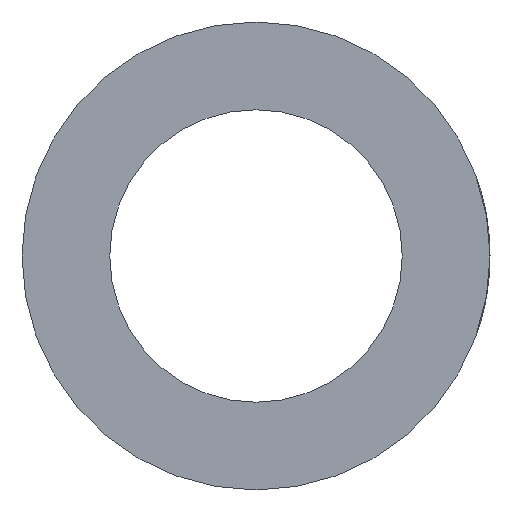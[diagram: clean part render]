
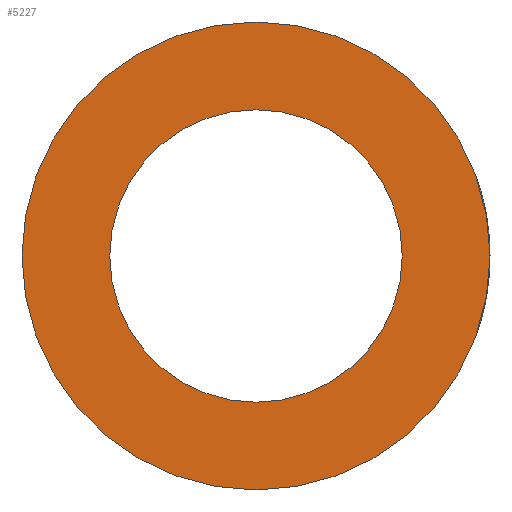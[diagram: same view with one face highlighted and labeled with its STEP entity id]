
A CAD part, left-side view. The second image highlights one B-rep face of the part: STEP entity #5227.
In plain terms, the highlighted planar face has unit normal (-1, 0, 0).
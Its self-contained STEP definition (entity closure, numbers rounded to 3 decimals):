
#117=PLANE('',#5631);
#359=CIRCLE('',#5630,20.);
#360=CIRCLE('',#5632,12.5);
#1571=ORIENTED_EDGE('',*,*,#3153,.T.);
#1572=ORIENTED_EDGE('',*,*,#3152,.F.);
#3152=EDGE_CURVE('',#3943,#3943,#359,.T.);
#3153=EDGE_CURVE('',#3944,#3944,#360,.T.);
#3943=VERTEX_POINT('',#8263);
#3944=VERTEX_POINT('',#8266);
#4466=EDGE_LOOP('',(#1571));
#4467=EDGE_LOOP('',(#1572));
#4841=FACE_BOUND('',#4466,.T.);
#4842=FACE_BOUND('',#4467,.T.);
#5227=ADVANCED_FACE('',(#4841,#4842),#117,.F.);
#5630=AXIS2_PLACEMENT_3D('',#8262,#6170,#6171);
#5631=AXIS2_PLACEMENT_3D('',#8264,#6172,#6173);
#5632=AXIS2_PLACEMENT_3D('',#8265,#6174,#6175);
#6170=DIRECTION('',(1.,0.,0.));
#6171=DIRECTION('',(0.,0.,-1.));
#6172=DIRECTION('',(1.,0.,0.));
#6173=DIRECTION('',(0.,0.,-1.));
#6174=DIRECTION('',(1.,0.,0.));
#6175=DIRECTION('',(0.,0.,-1.));
#8262=CARTESIAN_POINT('',(-29.,0.,0.));
#8263=CARTESIAN_POINT('',(-29.,0.,-20.));
#8264=CARTESIAN_POINT('',(-29.,0.,0.));
#8265=CARTESIAN_POINT('',(-29.,0.,0.));
#8266=CARTESIAN_POINT('',(-29.,0.,-12.5));
